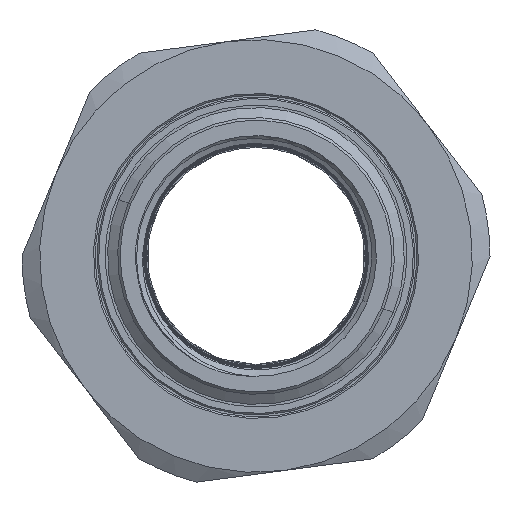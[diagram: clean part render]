
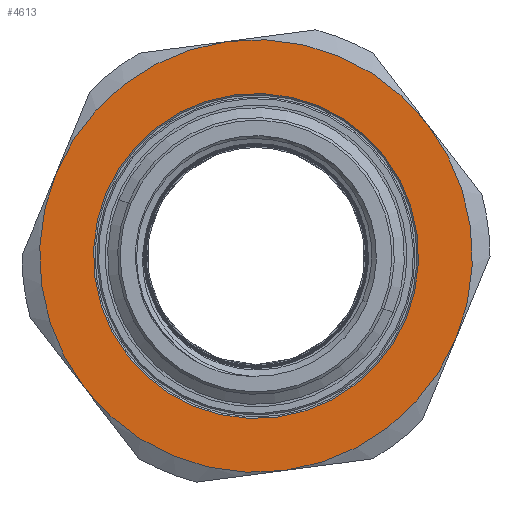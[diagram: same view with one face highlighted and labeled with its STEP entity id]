
A CAD part, left-side view. The second image highlights one B-rep face of the part: STEP entity #4613.
In plain terms, the highlighted planar face has unit normal (-1, 0, 0) as drawn and (1, 0, 0) by its records, which use the part's own axes.
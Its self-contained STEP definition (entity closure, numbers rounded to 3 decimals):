
#217 = CIRCLE ( 'NONE', #12702, 32.3 ) ;
#3850 = EDGE_LOOP ( 'NONE', ( #3988, #3987, #3978, #15821, #15827, #15826 ) ) ;
#3861 = EDGE_LOOP ( 'NONE', ( #4009, #15819 ) ) ;
#3978 = ORIENTED_EDGE ( 'NONE', *, *, #6025, .F. ) ;
#3987 = ORIENTED_EDGE ( 'NONE', *, *, #6029, .F. ) ;
#3988 = ORIENTED_EDGE ( 'NONE', *, *, #6234, .F. ) ;
#4009 = ORIENTED_EDGE ( 'NONE', *, *, #9890, .T. ) ;
#4205 = VERTEX_POINT ( 'NONE', #12895 ) ;
#4217 = VERTEX_POINT ( 'NONE', #12962 ) ;
#4253 = VERTEX_POINT ( 'NONE', #12941 ) ;
#4259 = VERTEX_POINT ( 'NONE', #12934 ) ;
#4280 = VERTEX_POINT ( 'NONE', #13025 ) ;
#4292 = VERTEX_POINT ( 'NONE', #13019 ) ;
#4294 = VERTEX_POINT ( 'NONE', #13013 ) ;
#4296 = VERTEX_POINT ( 'NONE', #13038 ) ;
#4613 = ADVANCED_FACE ( 'NONE', ( #5728, #5733 ), #13872, .F. ) ;
#5728 = FACE_BOUND ( 'NONE', #3861, .T. ) ;
#5733 = FACE_OUTER_BOUND ( 'NONE', #3850, .T. ) ;
#5840 = CIRCLE ( 'NONE', #6674, 43. ) ;
#5844 = CIRCLE ( 'NONE', #6648, 32.3 ) ;
#5859 = CIRCLE ( 'NONE', #6643, 43. ) ;
#5897 = CIRCLE ( 'NONE', #6655, 43. ) ;
#5920 = CIRCLE ( 'NONE', #6646, 43. ) ;
#5925 = CIRCLE ( 'NONE', #6665, 43. ) ;
#5955 = CIRCLE ( 'NONE', #6637, 43. ) ;
#6021 = EDGE_CURVE ( 'NONE', #4217, #4205, #5844, .T. ) ;
#6024 = EDGE_CURVE ( 'NONE', #4292, #4296, #5859, .T. ) ;
#6025 = EDGE_CURVE ( 'NONE', #4253, #4280, #5897, .T. ) ;
#6029 = EDGE_CURVE ( 'NONE', #4280, #4259, #5840, .T. ) ;
#6231 = EDGE_CURVE ( 'NONE', #4296, #4253, #5920, .T. ) ;
#6234 = EDGE_CURVE ( 'NONE', #4259, #4294, #5925, .T. ) ;
#6265 = EDGE_CURVE ( 'NONE', #4294, #4292, #5955, .T. ) ;
#6594 = AXIS2_PLACEMENT_3D ( 'NONE', #13867, #13849, #13882 ) ;
#6637 = AXIS2_PLACEMENT_3D ( 'NONE', #14882, #14897, #14883 ) ;
#6643 = AXIS2_PLACEMENT_3D ( 'NONE', #14114, #14089, #14091 ) ;
#6646 = AXIS2_PLACEMENT_3D ( 'NONE', #14476, #14477, #14503 ) ;
#6648 = AXIS2_PLACEMENT_3D ( 'NONE', #14096, #14086, #14106 ) ;
#6655 = AXIS2_PLACEMENT_3D ( 'NONE', #14111, #14097, #14078 ) ;
#6665 = AXIS2_PLACEMENT_3D ( 'NONE', #14560, #14515, #14566 ) ;
#6674 = AXIS2_PLACEMENT_3D ( 'NONE', #14166, #14163, #14154 ) ;
#9890 = EDGE_CURVE ( 'NONE', #4205, #4217, #217, .T. ) ;
#11993 = DIRECTION ( 'NONE',  ( -1., 0., 0. ) ) ;
#12004 = CARTESIAN_POINT ( 'NONE',  ( 21., 0., 0. ) ) ;
#12016 = DIRECTION ( 'NONE',  ( 0., 0., 1. ) ) ;
#12702 = AXIS2_PLACEMENT_3D ( 'NONE', #12004, #11993, #12016 ) ;
#12895 = CARTESIAN_POINT ( 'NONE',  ( 21., 0., -32.3 ) ) ;
#12934 = CARTESIAN_POINT ( 'NONE',  ( 21., 0., 43. ) ) ;
#12941 = CARTESIAN_POINT ( 'NONE',  ( 21., -37.239, -21.5 ) ) ;
#12962 = CARTESIAN_POINT ( 'NONE',  ( 21., 0., 32.3 ) ) ;
#13013 = CARTESIAN_POINT ( 'NONE',  ( 21., 37.239, 21.5 ) ) ;
#13019 = CARTESIAN_POINT ( 'NONE',  ( 21., 37.239, -21.5 ) ) ;
#13025 = CARTESIAN_POINT ( 'NONE',  ( 21., -37.239, 21.5 ) ) ;
#13038 = CARTESIAN_POINT ( 'NONE',  ( 21., 0., -43. ) ) ;
#13849 = DIRECTION ( 'NONE',  ( -1., 0., 0. ) ) ;
#13867 = CARTESIAN_POINT ( 'NONE',  ( 21., 32., 0. ) ) ;
#13872 = PLANE ( 'NONE',  #6594 ) ;
#13882 = DIRECTION ( 'NONE',  ( 0., 0., 1. ) ) ;
#14078 = DIRECTION ( 'NONE',  ( 0., 0., 1. ) ) ;
#14086 = DIRECTION ( 'NONE',  ( -1., 0., 0. ) ) ;
#14089 = DIRECTION ( 'NONE',  ( -1., 0., 0. ) ) ;
#14091 = DIRECTION ( 'NONE',  ( 0., 0., 1. ) ) ;
#14096 = CARTESIAN_POINT ( 'NONE',  ( 21., 0., 0. ) ) ;
#14097 = DIRECTION ( 'NONE',  ( -1., 0., 0. ) ) ;
#14106 = DIRECTION ( 'NONE',  ( 0., 0., 1. ) ) ;
#14111 = CARTESIAN_POINT ( 'NONE',  ( 21., 0., 0. ) ) ;
#14114 = CARTESIAN_POINT ( 'NONE',  ( 21., 0., 0. ) ) ;
#14154 = DIRECTION ( 'NONE',  ( 0., 0., 1. ) ) ;
#14163 = DIRECTION ( 'NONE',  ( -1., 0., 0. ) ) ;
#14166 = CARTESIAN_POINT ( 'NONE',  ( 21., 0., 0. ) ) ;
#14476 = CARTESIAN_POINT ( 'NONE',  ( 21., 0., 0. ) ) ;
#14477 = DIRECTION ( 'NONE',  ( -1., 0., 0. ) ) ;
#14503 = DIRECTION ( 'NONE',  ( 0., 0., 1. ) ) ;
#14515 = DIRECTION ( 'NONE',  ( -1., 0., 0. ) ) ;
#14560 = CARTESIAN_POINT ( 'NONE',  ( 21., 0., 0. ) ) ;
#14566 = DIRECTION ( 'NONE',  ( 0., 0., 1. ) ) ;
#14882 = CARTESIAN_POINT ( 'NONE',  ( 21., 0., 0. ) ) ;
#14883 = DIRECTION ( 'NONE',  ( 0., 0., 1. ) ) ;
#14897 = DIRECTION ( 'NONE',  ( -1., 0., 0. ) ) ;
#15819 = ORIENTED_EDGE ( 'NONE', *, *, #6021, .T. ) ;
#15821 = ORIENTED_EDGE ( 'NONE', *, *, #6231, .F. ) ;
#15826 = ORIENTED_EDGE ( 'NONE', *, *, #6265, .F. ) ;
#15827 = ORIENTED_EDGE ( 'NONE', *, *, #6024, .F. ) ;
